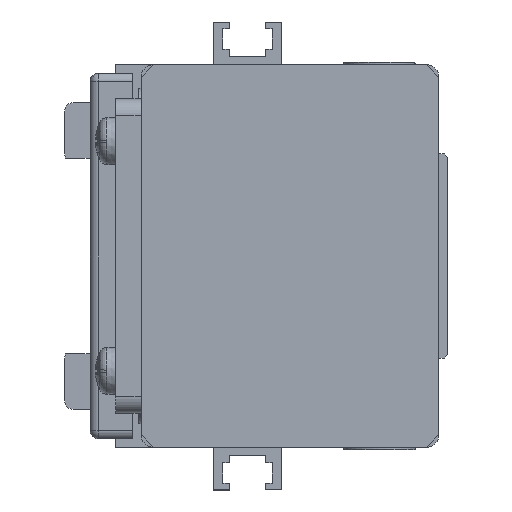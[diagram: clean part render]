
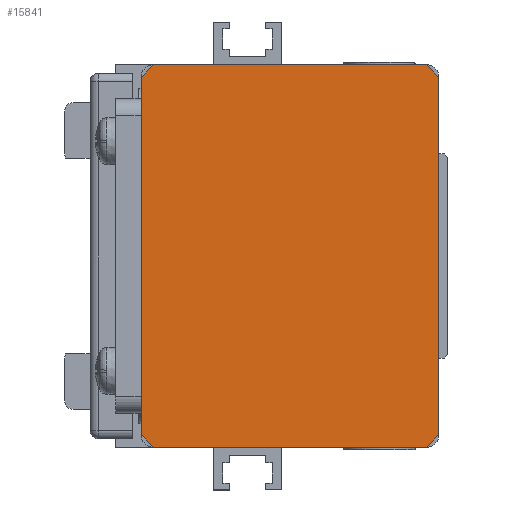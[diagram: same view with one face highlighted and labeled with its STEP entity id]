
A CAD part, left-side view. The second image highlights one B-rep face of the part: STEP entity #15841.
In plain terms, the highlighted planar face has unit normal (-1, 0, 0) as drawn and (0, 0, -1) by its records, which use the part's own axes.
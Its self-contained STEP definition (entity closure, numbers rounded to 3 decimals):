
#666=LINE('',#22971,#2032);
#668=LINE('',#22976,#2034);
#669=LINE('',#22978,#2035);
#670=LINE('',#22980,#2036);
#671=LINE('',#22981,#2037);
#672=LINE('',#22983,#2038);
#673=LINE('',#22985,#2039);
#674=LINE('',#22986,#2040);
#2032=VECTOR('',#18528,2.121);
#2034=VECTOR('',#18532,2.121);
#2035=VECTOR('',#18533,32.);
#2036=VECTOR('',#18534,2.121);
#2037=VECTOR('',#18535,42.);
#2038=VECTOR('',#18536,32.);
#2039=VECTOR('',#18537,2.121);
#2040=VECTOR('',#18538,42.);
#3684=PLANE('',#16908);
#4391=FACE_OUTER_BOUND('',#5375,.T.);
#5375=EDGE_LOOP('',(#11067,#11068,#11069,#11070,#11071,#11072,#11073,#11074));
#6973=VERTEX_POINT('',#22968);
#6974=VERTEX_POINT('',#22970);
#6975=VERTEX_POINT('',#22974);
#6976=VERTEX_POINT('',#22975);
#6977=VERTEX_POINT('',#22977);
#6978=VERTEX_POINT('',#22979);
#6979=VERTEX_POINT('',#22982);
#6980=VERTEX_POINT('',#22984);
#8606=EDGE_CURVE('',#6973,#6974,#666,.T.);
#8608=EDGE_CURVE('',#6975,#6976,#668,.T.);
#8609=EDGE_CURVE('',#6975,#6977,#669,.T.);
#8610=EDGE_CURVE('',#6978,#6977,#670,.T.);
#8611=EDGE_CURVE('',#6978,#6974,#671,.T.);
#8612=EDGE_CURVE('',#6973,#6979,#672,.T.);
#8613=EDGE_CURVE('',#6980,#6979,#673,.T.);
#8614=EDGE_CURVE('',#6980,#6976,#674,.T.);
#11067=ORIENTED_EDGE('',*,*,#8608,.F.);
#11068=ORIENTED_EDGE('',*,*,#8609,.T.);
#11069=ORIENTED_EDGE('',*,*,#8610,.F.);
#11070=ORIENTED_EDGE('',*,*,#8611,.T.);
#11071=ORIENTED_EDGE('',*,*,#8606,.F.);
#11072=ORIENTED_EDGE('',*,*,#8612,.T.);
#11073=ORIENTED_EDGE('',*,*,#8613,.F.);
#11074=ORIENTED_EDGE('',*,*,#8614,.T.);
#15841=ADVANCED_FACE('',(#4391),#3684,.F.);
#16908=AXIS2_PLACEMENT_3D('',#22973,#18530,#18531);
#18528=DIRECTION('',(-0.707,0.707,0.));
#18530=DIRECTION('center_axis',(0.,0.,1.));
#18531=DIRECTION('ref_axis',(1.,0.,0.));
#18532=DIRECTION('',(0.707,-0.707,0.));
#18533=DIRECTION('',(0.,1.,0.));
#18534=DIRECTION('',(-0.707,-0.707,0.));
#18535=DIRECTION('',(1.,0.,0.));
#18536=DIRECTION('',(0.,-1.,0.));
#18537=DIRECTION('',(0.707,0.707,0.));
#18538=DIRECTION('',(-1.,0.,0.));
#22968=CARTESIAN_POINT('',(50.,34.5,-477.));
#22970=CARTESIAN_POINT('',(48.5,36.,-477.));
#22971=CARTESIAN_POINT('',(50.,34.5,-477.));
#22973=CARTESIAN_POINT('Origin',(27.5,18.5,-477.));
#22974=CARTESIAN_POINT('',(5.,2.5,-477.));
#22975=CARTESIAN_POINT('',(6.5,1.,-477.));
#22976=CARTESIAN_POINT('',(5.,2.5,-477.));
#22977=CARTESIAN_POINT('',(5.,34.5,-477.));
#22978=CARTESIAN_POINT('',(5.,2.5,-477.));
#22979=CARTESIAN_POINT('',(6.5,36.,-477.));
#22980=CARTESIAN_POINT('',(6.5,36.,-477.));
#22981=CARTESIAN_POINT('',(6.5,36.,-477.));
#22982=CARTESIAN_POINT('',(50.,2.5,-477.));
#22983=CARTESIAN_POINT('',(50.,34.5,-477.));
#22984=CARTESIAN_POINT('',(48.5,1.,-477.));
#22985=CARTESIAN_POINT('',(48.5,1.,-477.));
#22986=CARTESIAN_POINT('',(48.5,1.,-477.));
